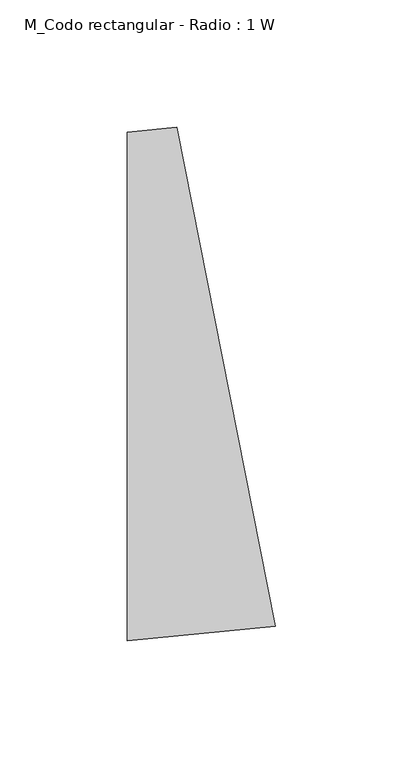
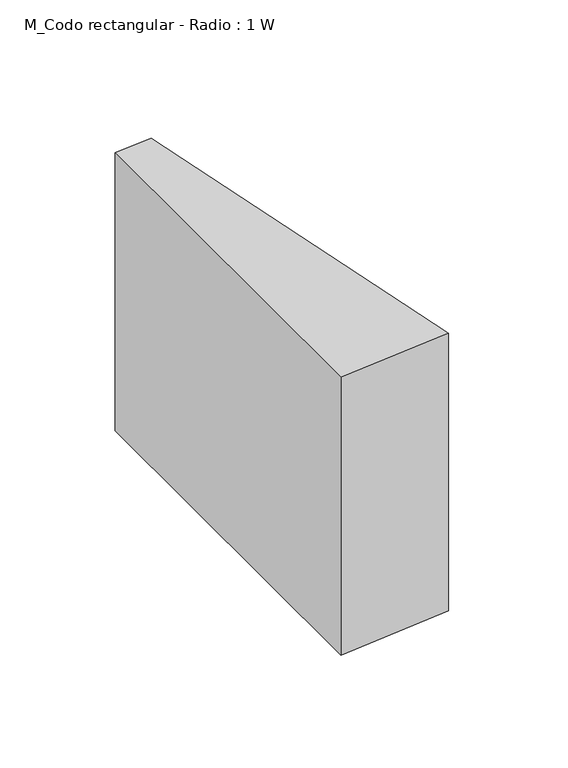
"""IFC4 building model written with IfcOpenShell, lengths in millimetres: duct fitting geometry, M_Codo rectangular - Radio : 1 W."""

from ifc_helpers import new_model, si_unit, point, frame, frame_2d, origin, place, context, project, spatial, polyline, circle_curve, trimmed, segment, composite_curve, outline, extrude, source, transform, mapped, element, save


def m_codo_rectangular_radio_1_w_367c2bea(model_context):
    return source(origin(), model_context, "Body", "SweptSolid", [
        extrude(outline(composite_curve([segment(trimmed(circle_curve(frame_2d((-19.6218975, 200.0)), 300.0), [point((38.6825868, -94.2797769))], [point((-19.6218975, -100.0))], False, "CARTESIAN"), True, "CONTINUOUS"), segment(polyline([(-19.6218975, -100.0), (-19.6218975, 100.0)]), True, "CONTINUOUS"), segment(trimmed(circle_curve(frame_2d((-19.6218975, 200.0)), 100.0), [point((-19.6218975, 100.0))], [point((-0.1870694, 101.906741))], True, "CARTESIAN"), True, "CONTINUOUS"), segment(polyline([(-0.1870694, 101.906741), (38.6825868, -94.2797769)]), True, "CONTINUOUS")], self_intersect=False)), frame((0.0, 0.0, -75.0), z_axis=(0.0, 0.0, 1.0), x_axis=(1.0, 0.0, 0.0)), (0.0, 0.0, 1.0), 150.0),
    ])


if __name__ == "__main__":
    model = new_model("IFC4")
    model_context = context("Model", 3, world=origin())
    ifc_project = project(units=[si_unit("LENGTHUNIT", "METRE", prefix="MILLI")], contexts=[model_context])
    site = spatial("IfcSite", under=ifc_project)
    building = spatial("IfcBuilding", under=site)
    placement = place(None, origin())
    m_codo_rectangular_radio_1_w_shape = m_codo_rectangular_radio_1_w_367c2bea(model_context)
    element("IfcDuctFitting", 1, ObjectType="M_Codo rectangular - Radio : 1 W", at=placement, inside=building, context=model_context, shape_type="MappedRepresentation", body=[
        mapped(m_codo_rectangular_radio_1_w_shape, transform((0.0, 0.0, 0.0), x_axis=(1.0, 0.0, 0.0), y_axis=(0.0, 1.0, 0.0), z_axis=(0.0, 0.0, 1.0))),
    ])
    save(model, "model.ifc")
